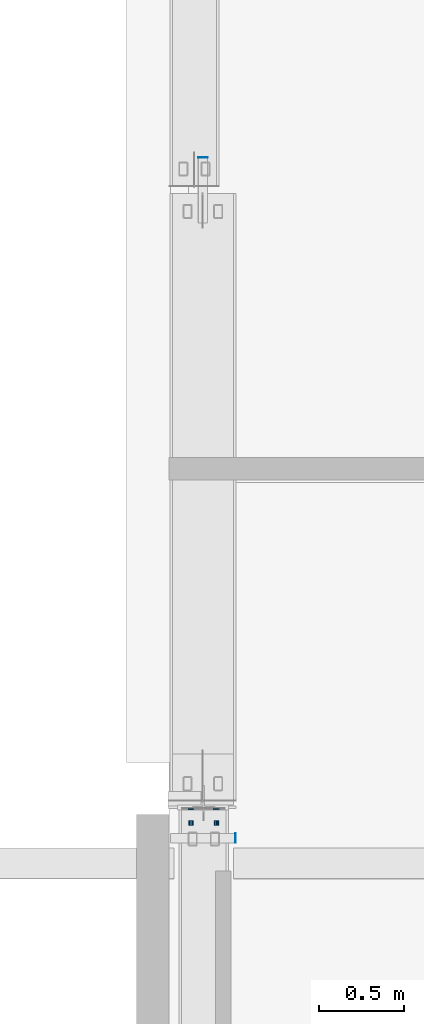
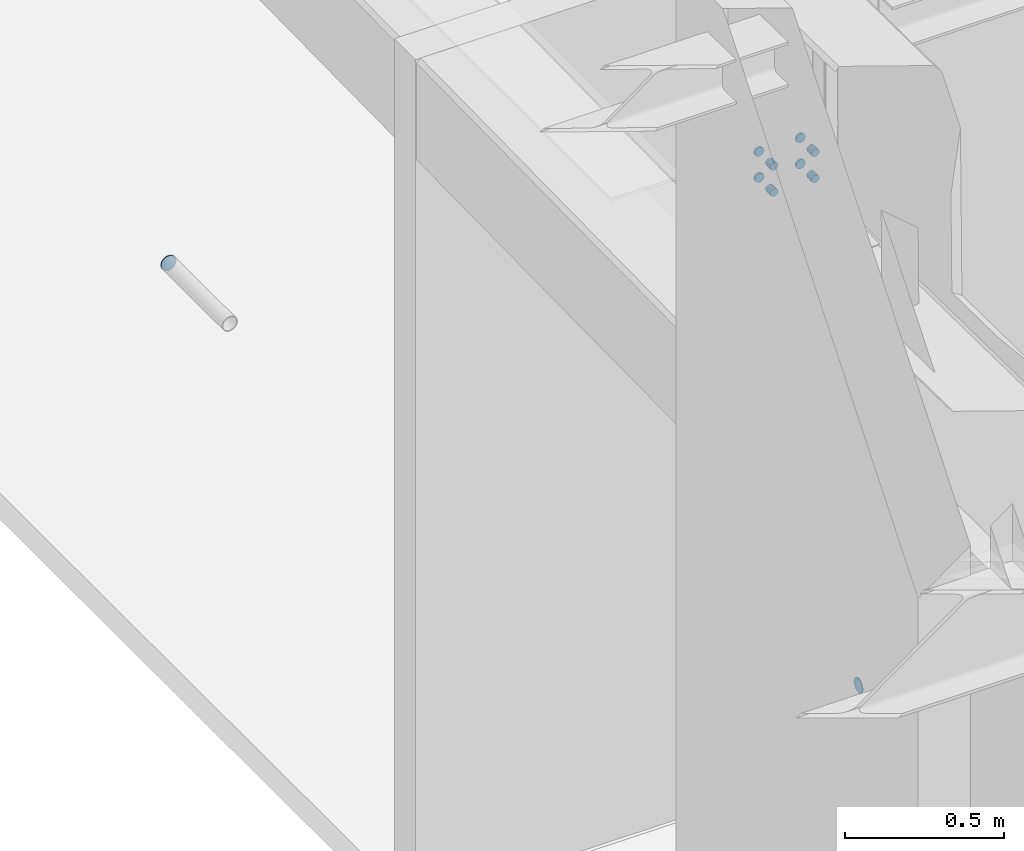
# One storey, part 106 of 186: 10 beams.
"""IFC4X3_ADD2 building model written with IfcOpenShell, lengths in millimetres."""

from ifc_helpers import new_model, si_unit, direction, frame, origin_with_axes, place, context, subcontext, project, spatial, indexed_curve, outline, extrude, material, element, save


model = new_model("IFC4X3_ADD2")

# Units and contexts
model_context = context("Model", 3, precision=1e-05, world=origin_with_axes(), true_north=direction((0.0, 1.0)))
body_context = subcontext(model_context, "Body", "Model", "MODEL_VIEW")
ifc_project = project(units=[si_unit("LENGTHUNIT", "METRE", prefix="MILLI"), si_unit("AREAUNIT", "SQUARE_METRE"), si_unit("VOLUMEUNIT", "CUBIC_METRE"), si_unit("PLANEANGLEUNIT", "RADIAN"), si_unit("TIMEUNIT", "SECOND"), si_unit("MASSUNIT", "GRAM")], contexts=[model_context])

# Site, building, storey
site_placement = place(None, origin_with_axes())
site = spatial("IfcSite", under=ifc_project, at=site_placement, Name="Site", CompositionType="ELEMENT")
building_placement = place(site_placement, origin_with_axes())
building = spatial("IfcBuilding", under=site, at=building_placement, Name="IFC Building Story")
storey_placement = place(building_placement, frame((0.0, 0.0, 4370.0), z_axis=(0.0, 0.0, 1.0), x_axis=(1.0, 0.0, 0.0)))
storey = spatial("IfcBuildingStorey", under=building, at=storey_placement, Name="ETAGE 10 (1)", Elevation=4370.0)

# Beams
ifc_material_1 = material(Name="STEEL/Accessory 22919")
beam_1_placement = place(storey_placement, frame((33401.1883991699, 21814.9996109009, 1250.000000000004), z_axis=(0.0, -1.0, 0.0), x_axis=(-0.5555702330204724, 0.0, 0.8314696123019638)))
element("IfcBeam", 1, at=beam_1_placement, inside=storey, material=ifc_material_1, Name="TA4", ObjectType="D56", context=body_context, shape_type="SweptSolid", body=[
    extrude(outline(indexed_curve([(23.28114914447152, 15.55596652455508), (27.46198785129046, 5.462529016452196), (27.46198785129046, -5.462529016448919), (23.28114914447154, -15.55596652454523), (15.55596652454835, -23.28114914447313), (5.462529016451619, -27.46198785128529), (-5.462529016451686, -27.46198785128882), (-15.55596652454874, -23.28114914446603), (-23.2811491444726, -15.55596652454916), (-27.46198785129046, -5.462529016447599), (-27.46198785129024, 5.462529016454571), (-23.28114914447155, 15.55596652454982), (-15.55596652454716, 23.28114914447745), (-5.462529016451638, 27.46198785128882), (5.462529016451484, 27.46198785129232), (15.55596652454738, 23.28114914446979), (23.28114914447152, 15.55596652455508)])), origin_with_axes(), (0.0, 0.0, 1.0), 3.000000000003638),
])
beam_2_placement = place(storey_placement, frame((33596.188, 17805.0, 1990.000000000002), z_axis=(-1.0, 0.0, 0.0), x_axis=(0.0, 0.5555702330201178, 0.8314696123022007)))
element("IfcBeam", 2, at=beam_2_placement, inside=storey, material=ifc_material_1, Name="TA4", ObjectType="D56", context=body_context, shape_type="SweptSolid", body=[
    extrude(outline(indexed_curve([(23.28114914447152, 15.55596652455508), (27.46198785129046, 5.462529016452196), (27.46198785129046, -5.462529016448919), (23.28114914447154, -15.55596652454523), (15.55596652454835, -23.28114914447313), (5.462529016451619, -27.46198785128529), (-5.462529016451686, -27.46198785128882), (-15.55596652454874, -23.28114914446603), (-23.2811491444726, -15.55596652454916), (-27.46198785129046, -5.462529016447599), (-27.46198785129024, 5.462529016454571), (-23.28114914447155, 15.55596652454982), (-15.55596652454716, 23.28114914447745), (-5.462529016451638, 27.46198785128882), (5.462529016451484, 27.46198785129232), (15.55596652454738, 23.28114914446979), (23.28114914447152, 15.55596652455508)])), origin_with_axes(), (0.0, 0.0, 1.0), 3.0),
])
ifc_material_2 = material(Name="STEEL/Accessory_Hole_Concrete 8616")
for number, where, z_axis, x_axis, name in (
    (3, (33331.1890000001, 17979.9989318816, 4030.000419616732), (0.0, -1.0, 0.0), (-0.2588190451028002, 0.0, -0.9659258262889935), "ZW9"),
    (4, (33331.189, 17979.9989318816, 3930.00041961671), (0.0, -1.0, 0.0), (-0.2588190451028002, 0.0, -0.9659258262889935), "ZW9"),
    (5, (33481.189, 17979.9989318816, 4030.000419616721), (0.0, -1.0, 0.0), (0.2588190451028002, 0.0, 0.9659258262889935), "ZW9"),
    (6, (33481.189, 17979.9989318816, 3930.000419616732), (0.0, -1.0, 0.0), (-0.2588190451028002, 0.0, -0.9659258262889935), "ZW9"),
):
    element("IfcBeam", number, at=place(storey_placement, frame(where, z_axis=z_axis, x_axis=x_axis)), inside=storey, material=ifc_material_2, Name=name, ObjectType="D35", context=body_context, shape_type="SweptSolid", body=[
        extrude(outline(indexed_curve([(-12.37436867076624, -12.37436867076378), (-16.90370196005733, -4.529333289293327), (-16.90370196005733, 4.529333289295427), (-12.37436867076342, 12.37436867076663), (-4.52933328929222, 16.90370196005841), (4.529333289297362, 16.90370196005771), (12.374368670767, 12.37436867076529), (16.90370196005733, 4.529333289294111), (16.90370196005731, -4.529333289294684), (12.37436867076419, -12.37436867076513), (4.529333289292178, -16.90370196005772), (-4.529333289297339, -16.90370196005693), (-12.37436867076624, -12.37436867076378)])), origin_with_axes(), (0.0, 0.0, 1.0), 8.0),
    ])
ifc_material_3 = material(Name="STEEL/Accessory")
for number, where, z_axis, x_axis, name in (
    (7, (33481.189, 17909.9989318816, 4030.000419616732), (0.0, -1.0, 0.0), (-0.9659258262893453, 0.0, -0.2588190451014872), "SD12"),
    (8, (33331.18900000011, 17909.9989318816, 4030.000419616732), (0.0, -1.0, 0.0), (-0.9659258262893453, 0.0, -0.2588190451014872), "SD12"),
    (9, (33481.189, 17909.9989318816, 3930.000419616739), (0.0, -1.0, 0.0), (-0.9659258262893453, 0.0, -0.2588190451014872), "SD12"),
    (10, (33331.18900000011, 17909.9989318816, 3930.000419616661), (0.0, -1.0, 0.0), (-0.9659258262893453, 0.0, -0.2588190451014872), "SD12"),
):
    element("IfcBeam", number, at=place(storey_placement, frame(where, z_axis=z_axis, x_axis=x_axis)), inside=storey, material=ifc_material_3, Name=name, ObjectType="D30", context=body_context, shape_type="SweptSolid", body=[
        extrude(outline(indexed_curve([(10.60660171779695, 10.60660171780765), (14.48888739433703, 3.882285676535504), (14.48888739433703, -3.882285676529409), (10.60660171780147, -10.60660171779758), (3.882285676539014, -14.48888739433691), (-3.882285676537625, -14.48888739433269), (-10.60660171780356, -10.60660171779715), (-14.48888739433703, -3.882285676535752), (-14.48888739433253, 3.882285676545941), (-10.60660171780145, 10.60660171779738), (-3.882285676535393, 14.48888739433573), (3.882285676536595, 14.48888739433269), (10.60660171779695, 10.60660171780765)])), origin_with_axes(), (0.0, 0.0, 1.0), 30.0),
    ])

save(model, "model.ifc")
